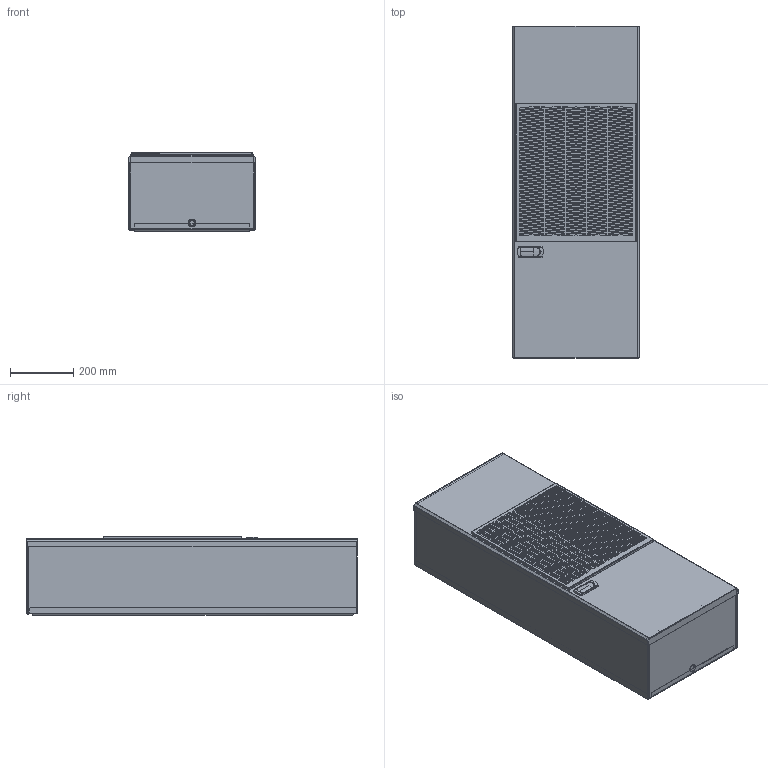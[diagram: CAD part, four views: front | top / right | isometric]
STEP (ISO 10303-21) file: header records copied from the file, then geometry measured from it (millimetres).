
FILE_DESCRIPTION(/* description */ (''),/* implementation_level */ '2;1');
FILE_NAME(/* name */ 'R5FAN15042LT-R5FAN20042LT_rh',/* time_stamp */ '2024-08-07T11:36:25+02:00',/* author */ (''),/* organization */ (''),/* preprocessor_version */ 'ST-DEVELOPER v16.5',/* originating_system */ 'Rhino 7.37',/* authorisation */ '');
FILE_SCHEMA (('AUTOMOTIVE_DESIGN'));
Length unit declared in the file: millimetre
Products named in the file (1): Document
Bounding box: 404 x 1050.5 x 250.2 mm (x, y, z)
Volume: 1247369.2 mm3; surface area: 3402332.8 mm2
Topology: 5 solids, 6 shells, 2049 faces, 5838 edges, 3821 vertices
Faces by surface type: plane 1797, cylinder 213, bspline 39
Entity records: 63110 total; most frequent: CARTESIAN_POINT 22709, ORIENTED_EDGE 11653, EDGE_CURVE 5837, B_SPLINE_CURVE_WITH_KNOTS 5421, VERTEX_POINT 3821, EDGE_LOOP 2762, ADVANCED_FACE 2049, FACE_OUTER_BOUND 2049
